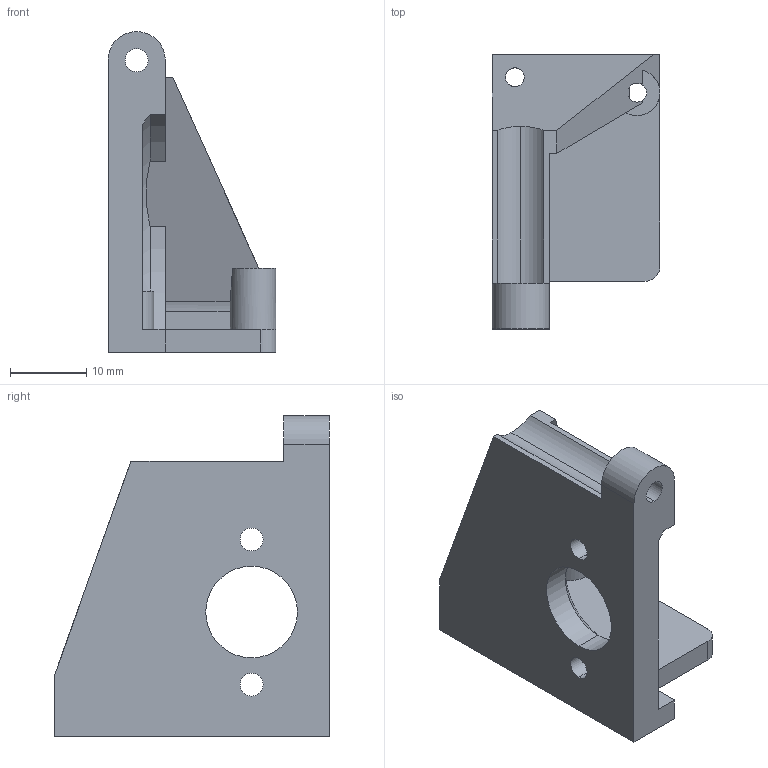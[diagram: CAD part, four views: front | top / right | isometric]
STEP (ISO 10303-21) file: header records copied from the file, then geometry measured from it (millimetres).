
FILE_DESCRIPTION (( 'STEP AP214' ), '1' );
FILE_NAME ('Ìîòîðíàÿ ðàìà.STEP', '2019-03-23T06:57:00', ( '' ), ( '' ), 'SwSTEP 2.0', 'SolidWorks 2018', '' );
FILE_SCHEMA (( 'AUTOMOTIVE_DESIGN' ));
Length unit declared in the file: millimetre
Products named in the file (1): Ìîòîðíàÿ ðàìà
Bounding box: 22 x 36 x 42 mm (x, y, z)
Volume: 8381.6 mm3; surface area: 5390.9 mm2
Topology: 1 solids, 1 shells, 48 faces, 136 edges, 90 vertices
Faces by surface type: cylinder 23, plane 22, cone 3
Entity records: 1636 total; most frequent: CARTESIAN_POINT 315, ORIENTED_EDGE 272, DIRECTION 268, EDGE_CURVE 136, AXIS2_PLACEMENT_3D 95, VERTEX_POINT 90, VECTOR 78, LINE 78
